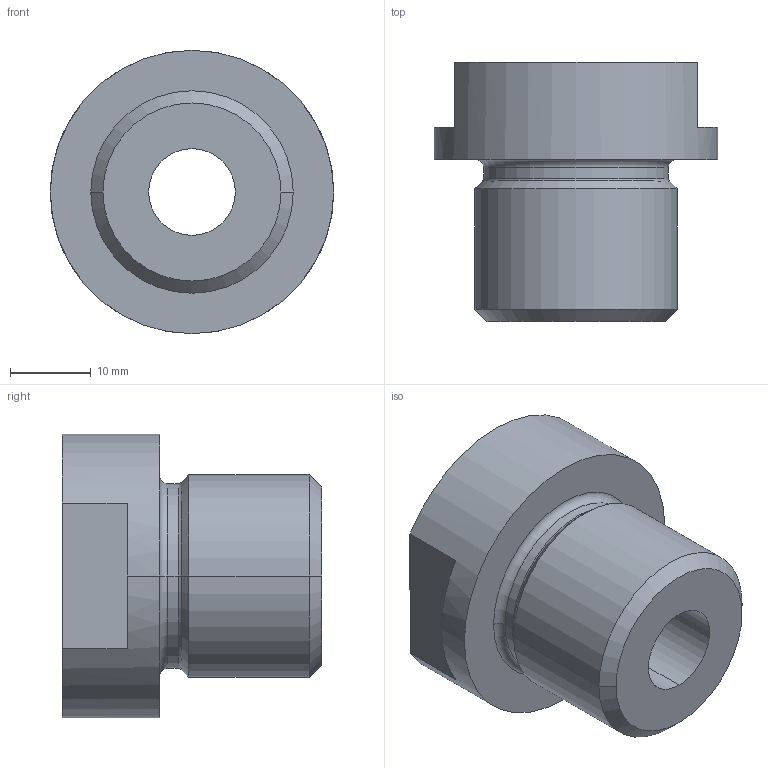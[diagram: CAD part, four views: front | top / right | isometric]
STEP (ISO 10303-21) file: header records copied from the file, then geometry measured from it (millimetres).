
FILE_DESCRIPTION (( 'STEP AP214' ), '1' );
FILE_NAME ('Ãàéêà ïðèæèìíàÿ äåòåêòîðà.STEP', '2023-02-16T12:37:34', ( '' ), ( '' ), 'SwSTEP 2.0', 'SolidWorks 2020', '' );
FILE_SCHEMA (( 'AUTOMOTIVE_DESIGN' ));
Length unit declared in the file: millimetre
Products named in the file (1): Ãàéêà ïðèæèìíàÿ äåòåêòîðà
Bounding box: 35 x 32 x 35 mm (x, y, z)
Volume: 17424.3 mm3; surface area: 5707.8 mm2
Topology: 1 solids, 1 shells, 28 faces, 62 edges, 38 vertices
Faces by surface type: cone 8, cylinder 8, plane 8, torus 4
Entity records: 866 total; most frequent: DIRECTION 158, CARTESIAN_POINT 129, ORIENTED_EDGE 124, AXIS2_PLACEMENT_3D 67, EDGE_CURVE 62, CIRCLE 38, VERTEX_POINT 38, EDGE_LOOP 32
